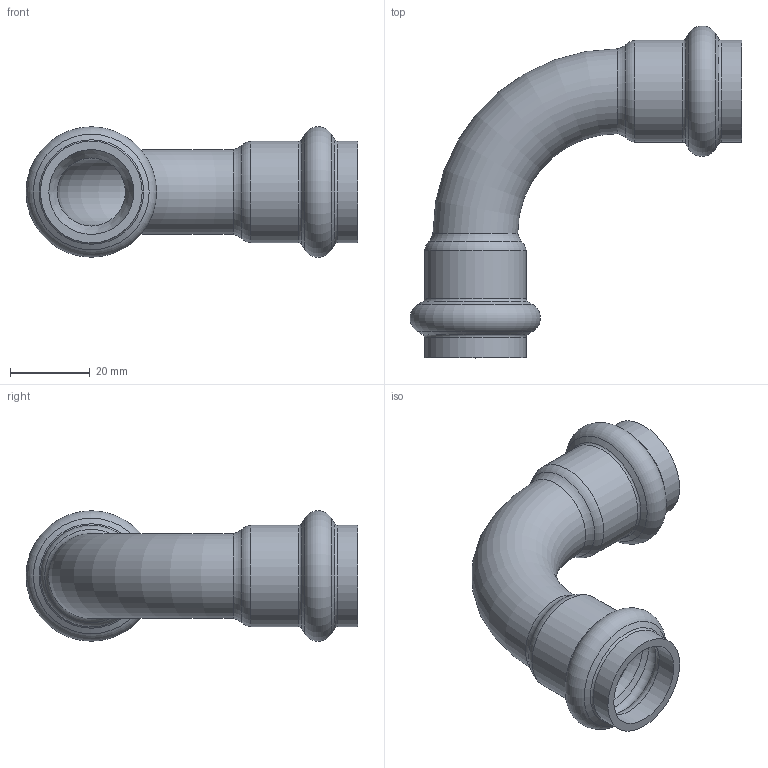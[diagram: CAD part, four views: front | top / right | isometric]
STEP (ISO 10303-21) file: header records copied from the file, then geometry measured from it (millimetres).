
FILE_DESCRIPTION(/* description */ ('VIC 90 DEG ST ELBOW STYLE P568 (P X P)','CAx-IF Rec.Pracs.---Representation and Presentation of Product Manufacturing Information (PMI)---4.0---2014-10-13'),/* implementation_level */ '2;1');
FILE_NAME(/* name */ 'C:\Users\kkamble\AppData\Roaming\Autodesk\ApplicationPlugins\Back Up\Victaulic_SS-Vic-Press-TP 316_Elbow 90 Deg_Style P568 (VP)\Victaulic_SS-Vic-Press-TP 316_Elbow 90 Deg_Style P568 (VP)_0.5 (15).stp',/* time_stamp */ '2020-08-14T14:06:28+06:00',/* author */ ('cgray'),/* organization */ ('Victaulic'),/* preprocessor_version */ 'ST-DEVELOPER v17.2',/* originating_system */ 'Autodesk Inventor 2019',/* authorisation */ '');
FILE_SCHEMA (('AP242_MANAGED_MODEL_BASED_3D_ENGINEERING_MIM_LF { 1 0 10303 442 1 1 4 }'));
Length unit declared in the file: inch
Products named in the file (1): P568-0.5
Bounding box: 83.46 x 83.46 x 32.82 mm (x, y, z)
Volume: 18397.2 mm3; surface area: 17895.1 mm2
Topology: 1 solids, 1 shells, 38 faces, 140 edges, 104 vertices
Faces by surface type: torus 18, cone 10, cylinder 8, plane 2
Full cylindrical faces by diameter (mm): 21.336 x4, 25.552 x4
Entity records: 1796 total; most frequent: DIRECTION 366, CARTESIAN_POINT 300, ORIENTED_EDGE 280, AXIS2_PLACEMENT_3D 174, EDGE_CURVE 140, CIRCLE 122, VERTEX_POINT 104, EDGE_LOOP 40
